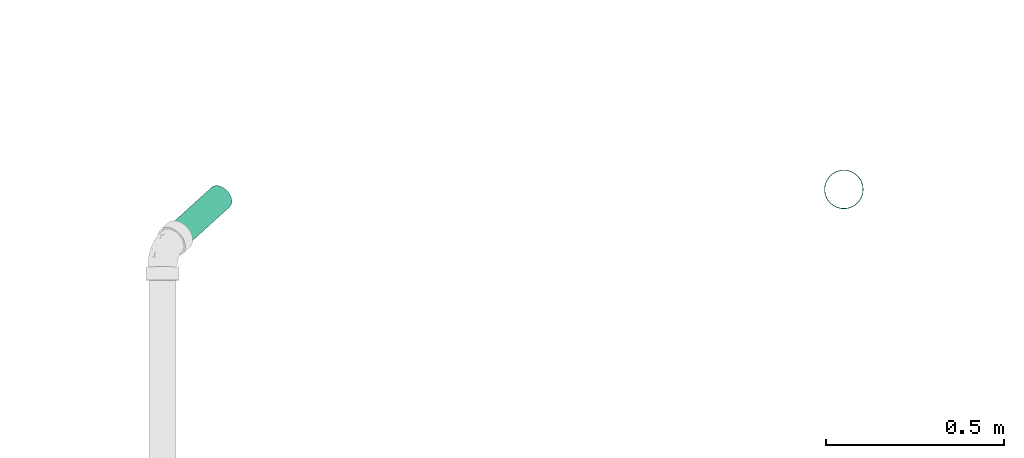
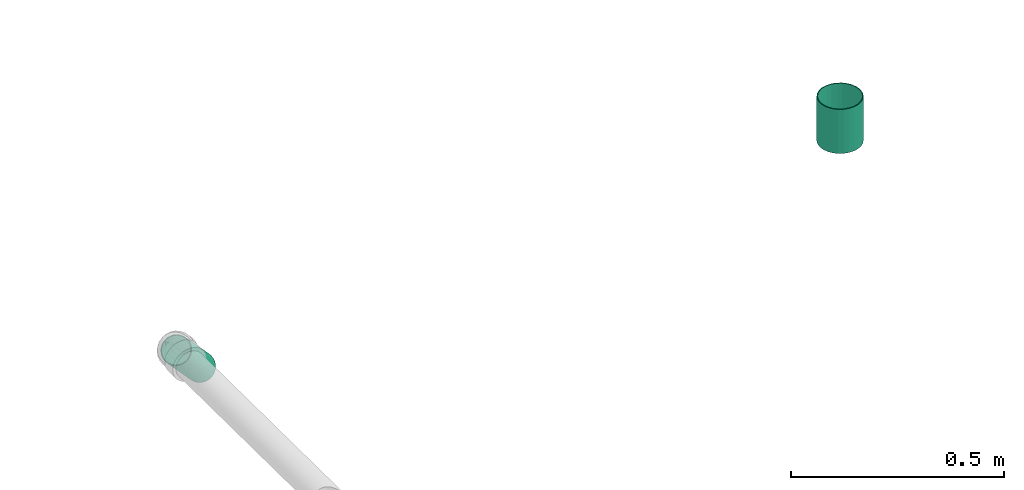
# One storey, part 6 of 17: 2 flow segments.
"""IFC2X3 building model written with IfcOpenShell, lengths in millimetres."""

from ifc_helpers import new_model, entity, si_unit, converted_unit, derived_unit, direction, frame, origin_with_axes, origin_2d_with_axis, place, context, subcontext, project, spatial, hollow_circle, extrude, source, transform, mapped, type_object, element, save


model = new_model("IFC2X3")

# Units and contexts
model_context = context("Model", 3, precision=0.01, world=frame((0.0, 4.29681676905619e-09, 0.0)), true_north=direction((4.01073788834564e-13, 1.0)))
plan_context = context("Plan", 3, precision=0.01, world=frame((0.0, 4.29681676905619e-09, 0.0)), true_north=direction((4.01073788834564e-13, 1.0)))
body_context = subcontext(model_context, "Body", "Model", "MODEL_VIEW")
ifc_project = project(units=[converted_unit("PLANEANGLEUNIT", "DEGREE", entity("IfcPositiveLengthMeasure", 0.0174532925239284), si_unit("PLANEANGLEUNIT", "RADIAN"), dimensions=[0, 0, 0, 0, 0, 0, 0]), si_unit("AREAUNIT", "SQUARE_METRE"), si_unit("LENGTHUNIT", "METRE", prefix="MILLI"), si_unit("MASSUNIT", "GRAM", prefix="KILO"), si_unit("POWERUNIT", "WATT"), si_unit("PRESSUREUNIT", "PASCAL", prefix="KILO"), si_unit("FORCEUNIT", "NEWTON", prefix="KILO"), si_unit("ELECTRICVOLTAGEUNIT", "VOLT"), si_unit("ELECTRICCURRENTUNIT", "AMPERE"), si_unit("THERMODYNAMICTEMPERATUREUNIT", "DEGREE_CELSIUS"), si_unit("TIMEUNIT", "SECOND"), si_unit("VOLUMEUNIT", "CUBIC_METRE"), derived_unit("LINEARVELOCITYUNIT", [(si_unit("LENGTHUNIT", "METRE"), 1), (si_unit("TIMEUNIT", "SECOND"), -1)]), derived_unit("VOLUMETRICFLOWRATEUNIT", [(si_unit("VOLUMEUNIT", "CUBIC_METRE"), 1), (si_unit("TIMEUNIT", "SECOND"), -1)]), derived_unit("THERMALTRANSMITTANCEUNIT", [(si_unit("POWERUNIT", "WATT"), 1), (si_unit("THERMODYNAMICTEMPERATUREUNIT", "KELVIN"), -1), (si_unit("AREAUNIT", "SQUARE_METRE"), -1)]), derived_unit("SOUNDPRESSUREUNIT", [(si_unit("PRESSUREUNIT", "PASCAL"), 1)])], contexts=[model_context, plan_context])

# Site, building, storey
site_placement = place(None, frame((0.0, -4.29681676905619e-09, 0.0), z_axis=(0.0, 0.0, 1.0), x_axis=(1.0, 0.0, 0.0)))
site = spatial("IfcSite", under=ifc_project, at=site_placement, Name="ENGM", CompositionType="ELEMENT")
building_placement = place(site_placement, frame((0.0, 4.29681676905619e-09, 0.0), z_axis=(0.0, 0.0, 1.0), x_axis=(1.0, 0.0, 0.0)))
building = spatial("IfcBuilding", under=site, at=building_placement, Name="TI", CompositionType="ELEMENT")
storey_placement = place(building_placement, frame((0.0, 0.0, 207370.0), z_axis=(0.0, 0.0, 1.0), x_axis=(1.0, 0.0, 0.0)))
storey = spatial("IfcBuildingStorey", under=building, at=storey_placement, Name="Nivå E", CompositionType="ELEMENT", Elevation=207370.0)

# Flow segments
pipe_segment_type = type_object("IfcPipeSegmentType", Name="MA", PredefinedType="RIGIDSEGMENT")
shared_shape_1 = source(origin_with_axes(), body_context, "Body", "SweptSolid", [
    extrude(hollow_circle(Radius=55.0, WallThickness=2.0, at=origin_2d_with_axis()), frame((0.0, 0.0, 0.0), z_axis=(1.0, 0.0, 0.0), x_axis=(0.0, 1.0, 0.0)), (0.0, 0.0, 1.0), 126.7),
])
flow_segment_1_placement = place(storey_placement, frame((594026.70284, 573635.60038, 2653.66273000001), z_axis=(0.0, 1.0, 0.0), x_axis=(0.0, 0.0, -1.0)))
element("IfcFlowSegment", 1, at=flow_segment_1_placement, inside=storey, type_object=pipe_segment_type, Name="MA", context=body_context, shape_type="MappedRepresentation", body=[
    mapped(shared_shape_1, transform((0.0, 0.0, 0.0), scale=1.0)),
])
shared_shape_2 = source(origin_with_axes(), body_context, "Body", "SweptSolid", [
    extrude(hollow_circle(Radius=37.5, WallThickness=2.0, at=origin_2d_with_axis()), frame((0.0, 0.0, 0.0), z_axis=(1.0, 0.0, 0.0), x_axis=(0.0, 1.0, 0.0)), (0.0, 0.0, 1.0), 253.0),
])
flow_segment_2_placement = place(storey_placement, frame((592277.2695, 573613.97121, 2501.91110999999), z_axis=(0.83978755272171, -0.326514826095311, 0.433756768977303), x_axis=(-0.54285048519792, -0.492665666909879, 0.680142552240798)))
element("IfcFlowSegment", 2, at=flow_segment_2_placement, inside=storey, type_object=pipe_segment_type, Name="MA", context=body_context, shape_type="MappedRepresentation", body=[
    mapped(shared_shape_2, transform((0.0, 0.0, 0.0), scale=1.0)),
])

save(model, "model.ifc")
